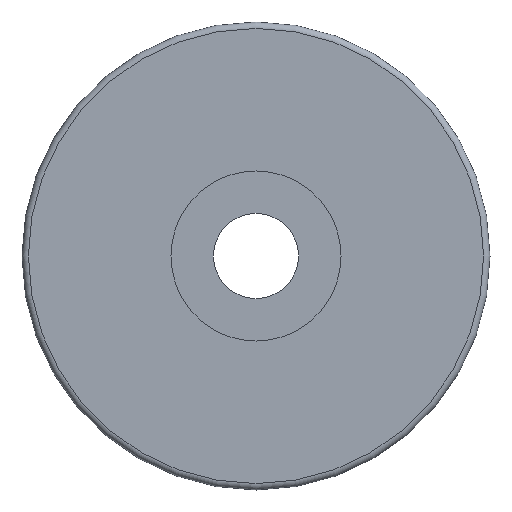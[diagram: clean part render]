
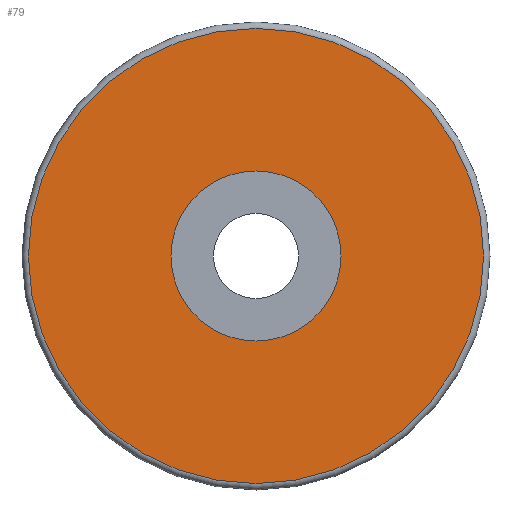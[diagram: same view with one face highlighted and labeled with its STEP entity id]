
A CAD part, front view. The second image highlights one B-rep face of the part: STEP entity #79.
In plain terms, the highlighted planar face has unit normal (0, -1, 0).
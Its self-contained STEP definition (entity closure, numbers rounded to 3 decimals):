
#79 = ADVANCED_FACE( '', ( #98, #99 ), #100, .T. );
#98 = FACE_OUTER_BOUND( '', #128, .T. );
#99 = FACE_BOUND( '', #129, .T. );
#100 = PLANE( '', #130 );
#128 = EDGE_LOOP( '', ( #166 ) );
#129 = EDGE_LOOP( '', ( #167 ) );
#130 = AXIS2_PLACEMENT_3D( '', #168, #169, #170 );
#166 = ORIENTED_EDGE( '', *, *, #201, .T. );
#167 = ORIENTED_EDGE( '', *, *, #200, .F. );
#168 = CARTESIAN_POINT( '', ( 4., 0., 0. ) );
#169 = DIRECTION( '', ( 0., -1., 0. ) );
#170 = DIRECTION( '', ( 0., 0., -1. ) );
#200 = EDGE_CURVE( '', #214, #214, #215, .T. );
#201 = EDGE_CURVE( '', #216, #216, #217, .T. );
#214 = VERTEX_POINT( '', #234 );
#215 = CIRCLE( '', #235, 4. );
#216 = VERTEX_POINT( '', #236 );
#217 = CIRCLE( '', #237, 10.7 );
#234 = CARTESIAN_POINT( '', ( 0., 0., -4. ) );
#235 = AXIS2_PLACEMENT_3D( '', #258, #259, #260 );
#236 = CARTESIAN_POINT( '', ( 0., 0., -10.7 ) );
#237 = AXIS2_PLACEMENT_3D( '', #261, #262, #263 );
#258 = CARTESIAN_POINT( '', ( 0., 0., 0. ) );
#259 = DIRECTION( '', ( 0., -1., 0. ) );
#260 = DIRECTION( '', ( 0., 0., -1. ) );
#261 = CARTESIAN_POINT( '', ( 0., 0., 0. ) );
#262 = DIRECTION( '', ( 0., -1., 0. ) );
#263 = DIRECTION( '', ( 0., 0., -1. ) );
